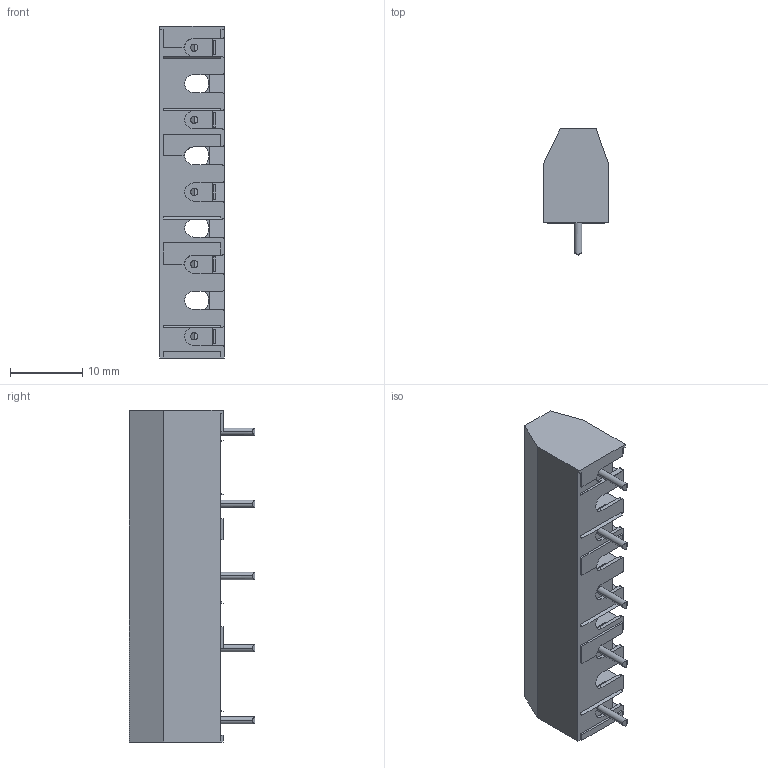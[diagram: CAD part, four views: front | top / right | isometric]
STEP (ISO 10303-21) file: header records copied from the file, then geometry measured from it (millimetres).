
FILE_DESCRIPTION (( 'STEP AP203' ), '1' );
FILE_NAME ('979-05.STEP', '2019-01-25T01:31:30', ( '' ), ( '' ), 'SwSTEP 2.0', 'SolidWorks 2016', '' );
FILE_SCHEMA (( 'CONFIG_CONTROL_DESIGN' ));
Length unit declared in the file: millimetre
Products named in the file (1): 979-05
Bounding box: 9 x 17.4 x 46 mm (x, y, z)
Volume: 3337.3 mm3; surface area: 3528.1 mm2
Topology: 1 solids, 1 shells, 438 faces, 1217 edges, 796 vertices
Faces by surface type: plane 305, cylinder 113, cone 20
Entity records: 14072 total; most frequent: CARTESIAN_POINT 2602, ORIENTED_EDGE 2434, DIRECTION 2311, EDGE_CURVE 1217, VECTOR 921, LINE 921, VERTEX_POINT 796, AXIS2_PLACEMENT_3D 695
